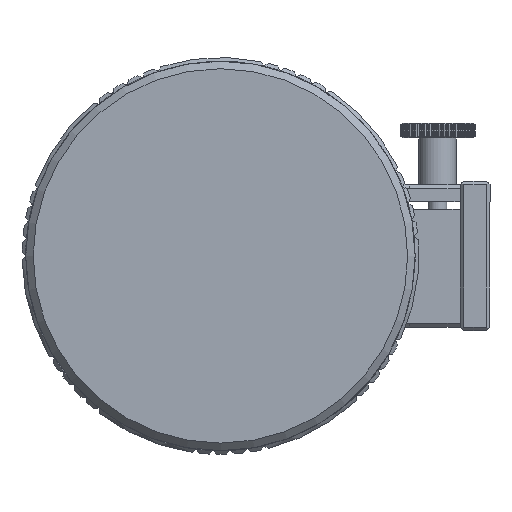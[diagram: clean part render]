
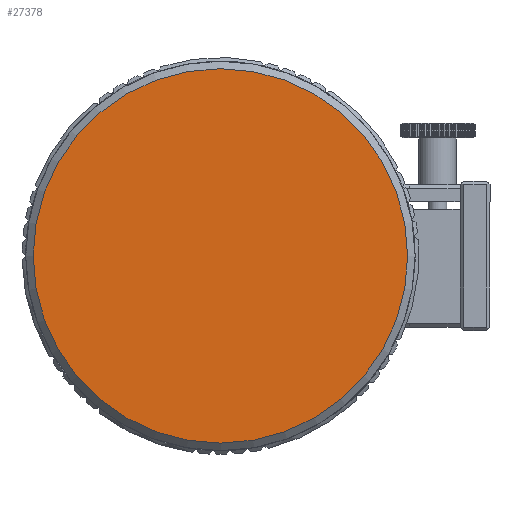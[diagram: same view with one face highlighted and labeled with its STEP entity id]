
A CAD part, left-side view. The second image highlights one B-rep face of the part: STEP entity #27378.
In plain terms, the highlighted planar face has unit normal (-1, 0, 0).
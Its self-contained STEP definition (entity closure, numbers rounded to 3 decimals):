
#27358=CARTESIAN_POINT('',(-172.682,-50.,0.044));
#27359=VERTEX_POINT('',#27358);
#27360=CARTESIAN_POINT('',(-172.682,0.,0.));
#27361=DIRECTION('',(1.0,0.,0.));
#27362=DIRECTION('',(0.,1.,-0.001));
#27363=AXIS2_PLACEMENT_3D('',#27360,#27361,#27362);
#27364=CIRCLE('',#27363,50.);
#27365=EDGE_CURVE('',#27359,#27359,#27364,.T.);
#27370=CARTESIAN_POINT('',(-172.682,-49.75,0.044));
#27371=DIRECTION('',(-1.0,0.0,0.0));
#27372=DIRECTION('',(0.0,0.001,1.));
#27373=AXIS2_PLACEMENT_3D('',#27370,#27371,#27372);
#27374=PLANE('',#27373);
#27375=ORIENTED_EDGE('',*,*,#27365,.F.);
#27376=EDGE_LOOP('',(#27375));
#27377=FACE_OUTER_BOUND('',#27376,.T.);
#27378=ADVANCED_FACE('',(#27377),#27374,.T.);
